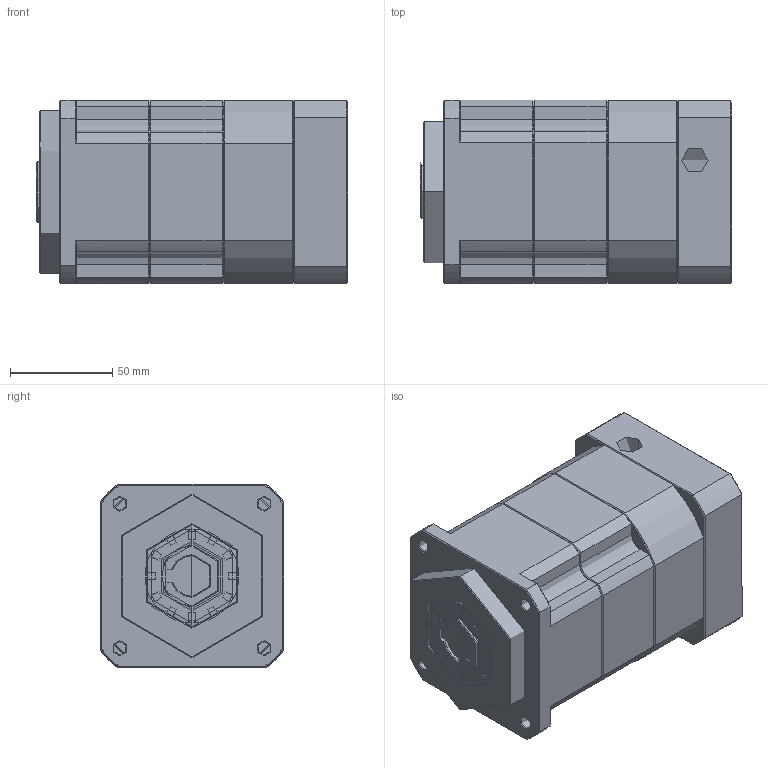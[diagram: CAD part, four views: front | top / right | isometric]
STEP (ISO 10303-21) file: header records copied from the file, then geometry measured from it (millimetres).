
FILE_DESCRIPTION (( 'STEP AP214' ), '1' );
FILE_NAME ('ZPB090-K20-L2-P1-16-80-100-M6.step', '2024-06-07T18:25:55', ( 'Windows 蚚誧' ), ( 'Organization' ), 'SwSTEP 2.0', 'SolidWorks 2016', '' );
FILE_SCHEMA (( 'AUTOMOTIVE_DESIGN' ));
Length unit declared in the file: millimetre
Products named in the file (1): ZPB090-K20-L2-P1-16-80-100-M6
Bounding box: 152.5 x 90 x 90 mm (x, y, z)
Topology: 0 solids, 36 shells, 1863 faces, 4903 edges, 3107 vertices
Faces by surface type: plane 965, bspline 382, cone 285, cylinder 231
Entity records: 88012 total; most frequent: CARTESIAN_POINT 40356, ORIENTED_EDGE 9786, DIRECTION 7593, EDGE_CURVE 4904, VECTOR 3251, LINE 3251, VERTEX_POINT 3107, AXIS2_PLACEMENT_3D 2171
